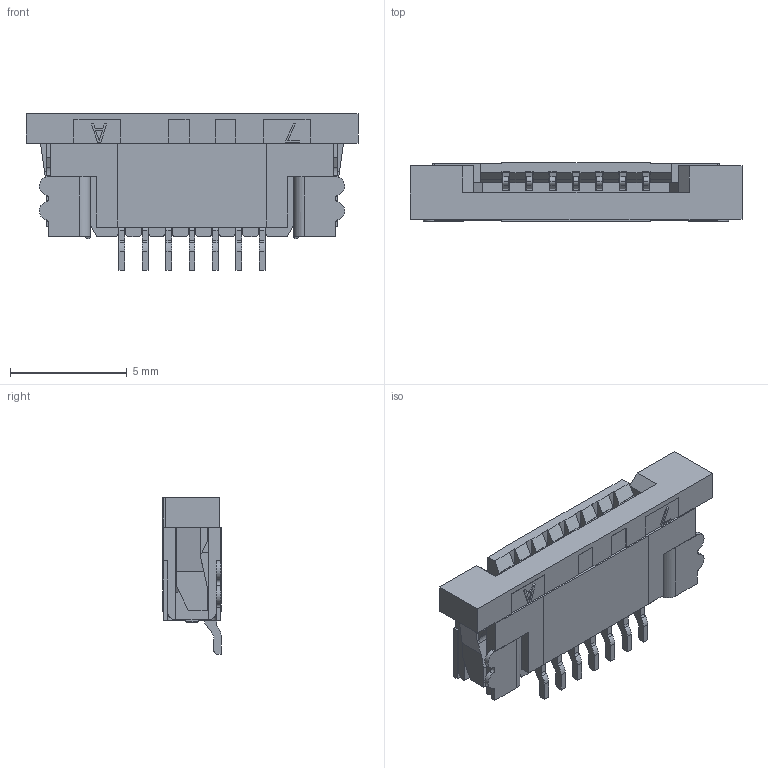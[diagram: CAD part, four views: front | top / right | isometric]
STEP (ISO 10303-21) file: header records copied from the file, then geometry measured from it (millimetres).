
FILE_DESCRIPTION (( 'STEP AP203' ), '1' );
FILE_NAME ('2434-D07TD1T-1100525.STEP', '2021-05-25T08:59:23', ( '' ), ( '' ), 'SwSTEP 2.0', 'SolidWorks 2019', '' );
FILE_SCHEMA (( 'CONFIG_CONTROL_DESIGN' ));
Length unit declared in the file: millimetre
Products named in the file (1): 2434-D07TD1T-1100525
Bounding box: 14.2 x 2.5 x 6.7 mm (x, y, z)
Volume: 130.4 mm3; surface area: 576.9 mm2
Topology: 1 solids, 1 shells, 910 faces, 2762 edges, 1804 vertices
Faces by surface type: plane 589, cylinder 307, bspline 14
Entity records: 31308 total; most frequent: CARTESIAN_POINT 6038, ORIENTED_EDGE 5524, DIRECTION 5108, EDGE_CURVE 2762, VECTOR 2070, LINE 2070, VERTEX_POINT 1804, AXIS2_PLACEMENT_3D 1519
